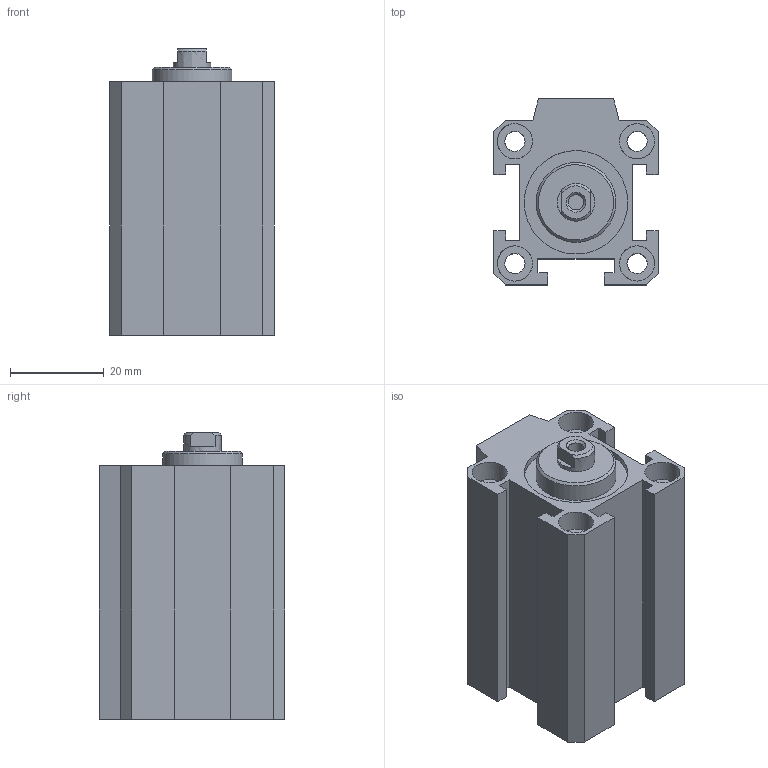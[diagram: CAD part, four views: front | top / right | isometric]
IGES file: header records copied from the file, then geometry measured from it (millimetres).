
Global section: file name: 1511_20_0020; native system: Autodesk Inventor 2014; preprocessor: unknown; author: A. Manieri; date: 20160824.110312; units: millimetre
Bounding box: 35 x 39.5 x 61 mm (x, y, z)
Volume: 46113.3 mm3; surface area: 22388.4 mm2
Topology: 2 solids, 2 shells, 91 faces, 233 edges, 164 vertices
Faces by surface type: bspline 91
